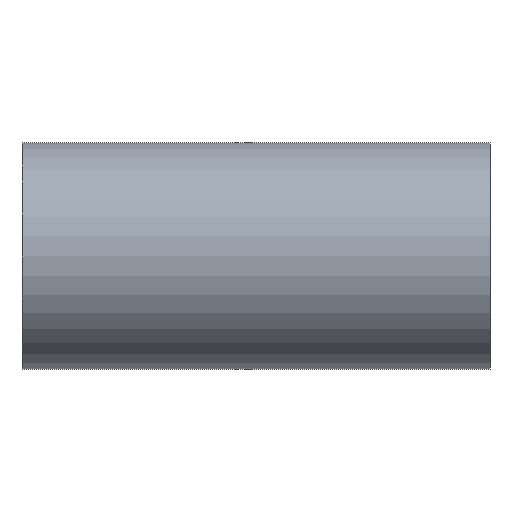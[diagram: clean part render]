
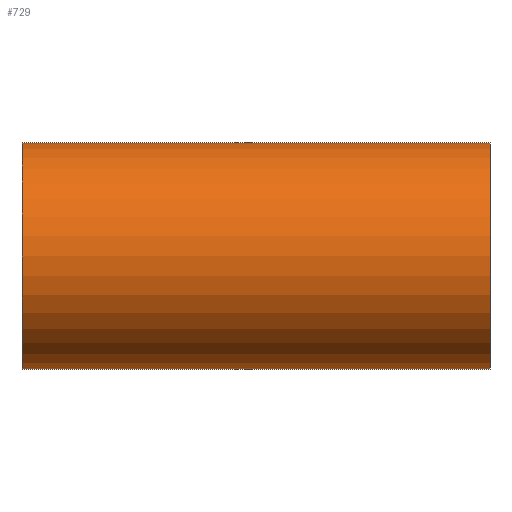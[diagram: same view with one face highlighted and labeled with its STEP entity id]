
A CAD part, front view. The second image highlights one B-rep face of the part: STEP entity #729.
In plain terms, the highlighted cylindrical face has radius 50.8 mm (diameter 101.6 mm), a partial arc.
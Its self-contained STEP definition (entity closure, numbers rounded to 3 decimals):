
#109 = CARTESIAN_POINT ( 'NONE',  ( -104.8, 0., 50.8 ) ) ;
#177 = DIRECTION ( 'NONE',  ( 1., 0., 0. ) ) ;
#188 = EDGE_CURVE ( 'NONE', #1299, #521, #920, .T. ) ;
#198 = CARTESIAN_POINT ( 'NONE',  ( -104.8, 0., 50.8 ) ) ;
#212 = VERTEX_POINT ( 'NONE', #1207 ) ;
#349 = DIRECTION ( 'NONE',  ( 0., 0., -1. ) ) ;
#412 = EDGE_CURVE ( 'NONE', #521, #212, #536, .T. ) ;
#413 = DIRECTION ( 'NONE',  ( 0., 0., -1. ) ) ;
#434 = FACE_OUTER_BOUND ( 'NONE', #597, .T. ) ;
#439 = AXIS2_PLACEMENT_3D ( 'NONE', #905, #1326, #349 ) ;
#455 = EDGE_CURVE ( 'NONE', #1097, #1299, #538, .T. ) ;
#506 = ORIENTED_EDGE ( 'NONE', *, *, #412, .T. ) ;
#521 = VERTEX_POINT ( 'NONE', #927 ) ;
#536 = CIRCLE ( 'NONE', #439, 50.8 ) ;
#538 = CIRCLE ( 'NONE', #595, 50.8 ) ;
#557 = ORIENTED_EDGE ( 'NONE', *, *, #1127, .F. ) ;
#595 = AXIS2_PLACEMENT_3D ( 'NONE', #681, #703, #668 ) ;
#597 = EDGE_LOOP ( 'NONE', ( #557, #770, #616, #506 ) ) ;
#616 = ORIENTED_EDGE ( 'NONE', *, *, #188, .T. ) ;
#668 = DIRECTION ( 'NONE',  ( 0., 0., -1. ) ) ;
#681 = CARTESIAN_POINT ( 'NONE',  ( -104.8, 0., 0. ) ) ;
#701 = AXIS2_PLACEMENT_3D ( 'NONE', #991, #1056, #413 ) ;
#703 = DIRECTION ( 'NONE',  ( 1., 0., 0. ) ) ;
#729 = ADVANCED_FACE ( 'NONE', ( #434 ), #795, .T. ) ;
#731 = CARTESIAN_POINT ( 'NONE',  ( -104.8, 0., -50.8 ) ) ;
#754 = CARTESIAN_POINT ( 'NONE',  ( -104.8, 0., -50.8 ) ) ;
#770 = ORIENTED_EDGE ( 'NONE', *, *, #455, .T. ) ;
#795 = CYLINDRICAL_SURFACE ( 'NONE', #701, 50.8 ) ;
#809 = VECTOR ( 'NONE', #177, 1000. ) ;
#815 = DIRECTION ( 'NONE',  ( 1., 0., 0. ) ) ;
#844 = VECTOR ( 'NONE', #815, 1000. ) ;
#905 = CARTESIAN_POINT ( 'NONE',  ( 104.8, 0., 0. ) ) ;
#920 = LINE ( 'NONE', #731, #844 ) ;
#927 = CARTESIAN_POINT ( 'NONE',  ( 104.8, 0., -50.8 ) ) ;
#991 = CARTESIAN_POINT ( 'NONE',  ( -104.8, 0., 0. ) ) ;
#1056 = DIRECTION ( 'NONE',  ( 1., 0., 0. ) ) ;
#1089 = LINE ( 'NONE', #109, #809 ) ;
#1097 = VERTEX_POINT ( 'NONE', #198 ) ;
#1127 = EDGE_CURVE ( 'NONE', #1097, #212, #1089, .T. ) ;
#1207 = CARTESIAN_POINT ( 'NONE',  ( 104.8, 0., 50.8 ) ) ;
#1299 = VERTEX_POINT ( 'NONE', #754 ) ;
#1326 = DIRECTION ( 'NONE',  ( -1., 0., 0. ) ) ;
